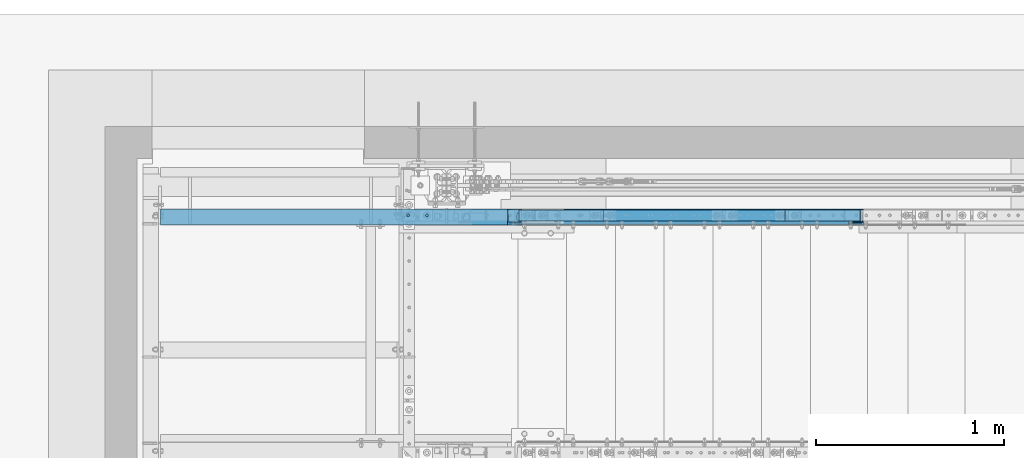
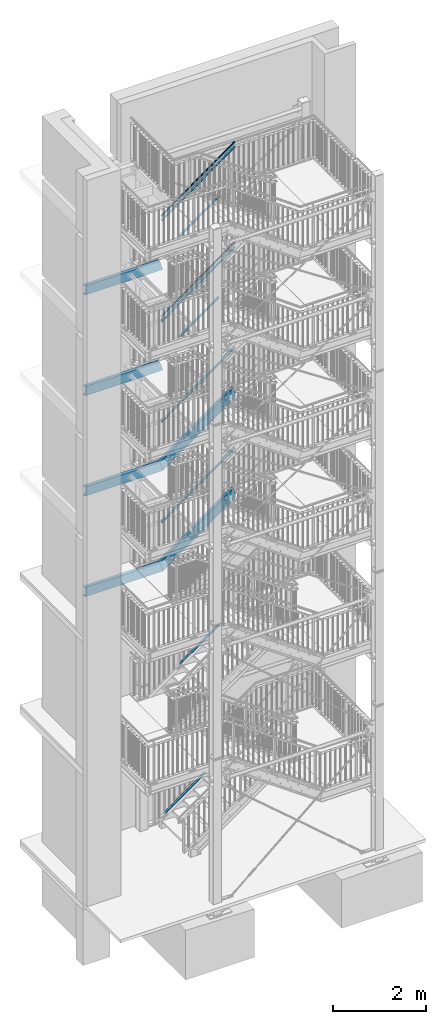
# One storey, part 127 of 831: 12 members, 4 beams, 56 openings.
"""IFC2X3 building model written with IfcOpenShell, lengths in millimetres."""

from ifc_helpers import new_model, entity, si_unit, converted_unit, frame, frame_2d, origin, origin_with_axes, origin_2d, origin_2d_with_axis, place, context, project, spatial, rectangle, circle, hollow_circle, u_section, extrude, clip, halfspace, material, element, save


model = new_model("IFC2X3")

# Units and contexts
model_context = context("Model", 3, precision=1e-09, world=origin_with_axes())
ifc_project = project(units=[si_unit("LENGTHUNIT", "METRE", prefix="MILLI"), si_unit("AREAUNIT", "SQUARE_METRE"), si_unit("VOLUMEUNIT", "CUBIC_METRE"), converted_unit("PLANEANGLEUNIT", "DEGREE", entity("IfcPlaneAngleMeasure", 0.01745329), si_unit("PLANEANGLEUNIT", "RADIAN"), dimensions=[0, 0, 0, 0, 0, 0, 0])], contexts=[model_context])

# Site, building, storey
site_placement = place(None, origin_with_axes())
site = spatial("IfcSite", under=ifc_project, at=site_placement, Name="Site", CompositionType="ELEMENT")
building_placement = place(site_placement, origin_with_axes())
building = spatial("IfcBuilding", under=site, at=building_placement, Name="Struktur 1", CompositionType="ELEMENT")
storey_placement = place(building_placement, origin_with_axes())
storey = spatial("IfcBuildingStorey", under=building, at=storey_placement, Name="Default Storey", CompositionType="ELEMENT", Elevation=0.0)

# Members
ifc_material = material(Name="S235JR")
member_1_placement = place(None, frame((5211.184895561, 7347.936971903, 13700.519885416), z_axis=(-0.810033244, 0.0, -0.586383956), x_axis=(0.586383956, 0.0, -0.810033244)))
element("IfcMember", 1, at=member_1_placement, inside=storey, material=ifc_material, Name="Gel?nder", ObjectType="Gel?nder", context=model_context, shape_type="Clipping", body=[
    clip(clip(extrude(hollow_circle(Radius=21.2, WallThickness=3.2, at=origin_2d()), origin(), (0.0, 0.0, -1.0), 2309.852130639), halfspace(frame((10880.560986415, 7347.936971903, 3493.383681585), z_axis=(0.308193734, 0.0, -0.951323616), x_axis=(0.0, -1.0, 0.0)), True)), halfspace(frame((11539.310370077, 7347.936971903, 1459.97490131), z_axis=(-0.308193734, 0.0, 0.951323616), x_axis=(0.0, 1.0, 0.0)), True)),
])
member_2_placement = place(None, frame((5697.145465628, 7356.736971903, 13032.550896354), z_axis=(-0.810033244, 0.0, -0.586383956), x_axis=(0.586383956, 0.0, -0.810033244)))
element("IfcMember", 2, at=member_2_placement, inside=storey, material=ifc_material, Name="Railing_Kneerail_Stair#3", ObjectType="Railing_Kneerail_Stair#3", context=model_context, shape_type="SweptSolid", body=[
    extrude(rectangle(XDim=10.0, YDim=60.0, at=origin_2d()), origin(), (0.0, 0.0, -1.0), 1190.242882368),
])
member_3_placement = place(None, frame((5211.146119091, 7347.936971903, 16335.597174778), z_axis=(-0.811618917, 0.0, -0.584187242), x_axis=(0.584187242, 0.0, -0.811618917)))
element("IfcMember", 3, at=member_3_placement, inside=storey, material=ifc_material, Name="Gel?nder", ObjectType="Gel?nder", context=model_context, shape_type="Clipping", body=[
    clip(clip(extrude(hollow_circle(Radius=21.2, WallThickness=3.2, at=origin_2d()), origin(), (0.0, 0.0, -1.0), 2305.434890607), halfspace(frame((13283.997609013, 7347.936971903, 4252.147668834), z_axis=(0.306904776, 0.0, -0.951740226), x_axis=(0.0, -1.0, 0.0)), True)), halfspace(frame((13938.996995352, 7347.936971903, 2220.933713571), z_axis=(-0.306904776, 0.0, 0.951740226), x_axis=(0.0, 1.0, 0.0)), True)),
])
member_4_placement = place(None, frame((5697.134482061, 7356.736971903, 15665.488832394), z_axis=(-0.811618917, 0.0, -0.584187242), x_axis=(0.584187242, 0.0, -0.811618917)))
element("IfcMember", 4, at=member_4_placement, inside=storey, material=ifc_material, Name="Railing_Kneerail_Stair#3", ObjectType="Railing_Kneerail_Stair#3", context=model_context, shape_type="SweptSolid", body=[
    extrude(rectangle(XDim=10.0, YDim=60.0, at=origin_2d()), origin(), (0.0, 0.0, -1.0), 1187.944551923),
])
member_5_placement = place(None, frame((5246.470638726, 7356.736971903, 16228.741905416), z_axis=(-0.811618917, 0.0, -0.584187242), x_axis=(0.584187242, 0.0, -0.811618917)))
element("IfcMember", 5, at=member_5_placement, inside=storey, material=ifc_material, Name="Railing_Kneerail_Stair#1002", ObjectType="Railing_Kneerail_Stair#1002", context=model_context, shape_type="SweptSolid", body=[
    extrude(rectangle(XDim=10.0, YDim=60.0, at=origin_2d()), origin(), (0.0, 0.0, -1.0), 2239.20704706),
])
member_6_placement = place(None, frame((5246.513340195, 7356.736971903, 13593.749833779), z_axis=(-0.810033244, 0.0, -0.586383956), x_axis=(0.586383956, 0.0, -0.810033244)))
element("IfcMember", 6, at=member_6_placement, inside=storey, material=ifc_material, Name="Railing_Kneerail_Stair#1002", ObjectType="Railing_Kneerail_Stair#1002", context=model_context, shape_type="SweptSolid", body=[
    extrude(rectangle(XDim=10.0, YDim=60.0, at=origin_2d()), origin(), (0.0, 0.0, -1.0), 2243.581735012),
])
member_7_placement = place(None, frame((5246.490586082, 7356.736971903, 10966.745605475), z_axis=(-0.810878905, 0.0, -0.585213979), x_axis=(0.585213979, 0.0, -0.810878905)))
element("IfcMember", 7, at=member_7_placement, inside=storey, material=ifc_material, Name="Railing_Kneerail_Stair#1002", ObjectType="Railing_Kneerail_Stair#1002", context=model_context, shape_type="SweptSolid", body=[
    extrude(rectangle(XDim=10.0, YDim=60.0, at=origin_2d()), origin(), (0.0, 0.0, -1.0), 2241.246511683),
])
member_8_placement = place(None, frame((5246.504812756, 7356.736971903, 8334.74824821), z_axis=(-0.810350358, 0.0, -0.585945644), x_axis=(0.585945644, 0.0, -0.810350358)))
element("IfcMember", 8, at=member_8_placement, inside=storey, material=ifc_material, Name="Railing_Kneerail_Stair#1002", ObjectType="Railing_Kneerail_Stair#1002", context=model_context, shape_type="SweptSolid", body=[
    extrude(rectangle(XDim=10.0, YDim=60.0, at=origin_2d()), origin(), (0.0, 0.0, -1.0), 2242.705476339),
])
member_9_placement = place(None, frame((5332.112742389, 7356.736971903, 702.814518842), z_axis=(-0.814635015, 0.0, -0.579973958), x_axis=(0.579973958, 0.0, -0.814635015)))
element("IfcMember", 9, at=member_9_placement, inside=storey, material=ifc_material, Name="Railing_Kneerail_Stair#1", ObjectType="Railing_Kneerail_Stair#1", context=model_context, shape_type="SweptSolid", body=[
    extrude(rectangle(XDim=10.0, YDim=60.0, at=origin_2d()), origin(), (0.0, 0.0, -1.0), 1218.06374537),
])
member_10_placement = place(None, frame((5697.089187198, 7356.736971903, 4472.906384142), z_axis=(-0.818063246, 0.0, -0.575128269), x_axis=(0.575128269, 0.0, -0.818063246)))
element("IfcMember", 10, at=member_10_placement, inside=storey, material=ifc_material, Name="Railing_Kneerail_Stair#3", ObjectType="Railing_Kneerail_Stair#3", context=model_context, shape_type="SweptSolid", body=[
    extrude(rectangle(XDim=10.0, YDim=60.0, at=origin_2d()), origin(), (0.0, 0.0, -1.0), 1178.697203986),
])

# Member, openings
member_11_placement = place(None, frame((5040.769761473, 7329.036971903, 9702.599256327), z_axis=(0.810878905, 0.0, 0.585213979), x_axis=(0.0, 1.0, 0.0)))
member_11 = element("IfcMember", 11, at=member_11_placement, inside=storey, material=ifc_material, Name="Stringer#1", ObjectType="Stringer#1", context=model_context, shape_type="Clipping", body=[
    clip(clip(extrude(u_section(Depth=240.0, FlangeWidth=85.0, WebThickness=9.5, FlangeThickness=13.0, FilletRadius=13.0, EdgeRadius=6.5, FlangeSlope=4.574, at=frame_2d((20.2, 0.0))), origin(), (0.0, 0.0, 1.0), 2764.271887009), halfspace(frame((-7329.036971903, -8031.601758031, -129.944247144), z_axis=(0.0, 0.307506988, -0.951545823), x_axis=(-1.0, 0.0, 0.0)), True)), halfspace(frame((-7329.036971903, -7374.852372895, -2162.18142843), z_axis=(0.0, -0.307506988, 0.951545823), x_axis=(1.0, 0.0, 0.0)), True)),
])
opening_1_placement = place(member_11_placement, frame((-22.8, -50.419344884, 791.0398607), z_axis=(1.0, 0.0, 0.0), x_axis=(0.0, -0.585213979, 0.810878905)))
element("IfcOpeningElement", 12, at=opening_1_placement, cuts=member_11, ObjectType="Opening", context=model_context, shape_type="SweptSolid", body=[
    extrude(circle(Radius=7.001, at=origin_2d_with_axis()), origin(), (0.0, 0.0, 1.0), 10.5),
])
opening_2_placement = place(member_11_placement, frame((-22.8, 54.91917113, 1607.0008729), z_axis=(1.0, 0.0, 0.0), x_axis=(0.0, -0.585213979, 0.810878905)))
element("IfcOpeningElement", 13, at=opening_2_placement, cuts=member_11, ObjectType="Opening", context=model_context, shape_type="SweptSolid", body=[
    extrude(circle(Radius=7.001, at=origin_2d_with_axis()), origin(), (0.0, 0.0, 1.0), 10.5),
])
opening_3_placement = place(member_11_placement, frame((-22.8, -50.419345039, 1432.319337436), z_axis=(1.0, 0.0, 0.0), x_axis=(0.0, -0.585213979, 0.810878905)))
element("IfcOpeningElement", 14, at=opening_3_placement, cuts=member_11, ObjectType="Opening", context=model_context, shape_type="SweptSolid", body=[
    extrude(circle(Radius=7.001, at=origin_2d_with_axis()), origin(), (0.0, 0.0, 1.0), 10.5),
])
opening_4_placement = place(member_11_placement, frame((-22.8, -50.419345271, 2394.23855254), z_axis=(1.0, 0.0, 0.0), x_axis=(0.0, -0.585213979, 0.810878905)))
element("IfcOpeningElement", 15, at=opening_4_placement, cuts=member_11, ObjectType="Opening", context=model_context, shape_type="SweptSolid", body=[
    extrude(circle(Radius=7.001, at=origin_2d_with_axis()), origin(), (0.0, 0.0, 1.0), 10.5),
])
opening_5_placement = place(member_11_placement, frame((-22.8, -50.419345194, 2073.598814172), z_axis=(1.0, 0.0, 0.0), x_axis=(0.0, -0.585213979, 0.810878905)))
element("IfcOpeningElement", 16, at=opening_5_placement, cuts=member_11, ObjectType="Opening", context=model_context, shape_type="SweptSolid", body=[
    extrude(circle(Radius=7.001, at=origin_2d_with_axis()), origin(), (0.0, 0.0, 1.0), 10.5),
])
opening_6_placement = place(member_11_placement, frame((-22.8, 54.919171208, 1286.361134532), z_axis=(1.0, 0.0, 0.0), x_axis=(0.0, -0.585213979, 0.810878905)))
element("IfcOpeningElement", 17, at=opening_6_placement, cuts=member_11, ObjectType="Opening", context=model_context, shape_type="SweptSolid", body=[
    extrude(circle(Radius=7.001, at=origin_2d_with_axis()), origin(), (0.0, 0.0, 1.0), 10.5),
])
opening_7_placement = place(member_11_placement, frame((-22.8, 54.919170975, 2248.280349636), z_axis=(1.0, 0.0, 0.0), x_axis=(0.0, -0.585213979, 0.810878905)))
element("IfcOpeningElement", 18, at=opening_7_placement, cuts=member_11, ObjectType="Opening", context=model_context, shape_type="SweptSolid", body=[
    extrude(circle(Radius=7.001, at=origin_2d_with_axis()), origin(), (0.0, 0.0, 1.0), 10.5),
])
opening_8_placement = place(member_11_placement, frame((-22.8, -50.419344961, 1111.679599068), z_axis=(1.0, 0.0, 0.0), x_axis=(0.0, -0.585213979, 0.810878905)))
element("IfcOpeningElement", 19, at=opening_8_placement, cuts=member_11, ObjectType="Opening", context=model_context, shape_type="SweptSolid", body=[
    extrude(circle(Radius=7.001, at=origin_2d_with_axis()), origin(), (0.0, 0.0, 1.0), 10.5),
])
opening_9_placement = place(member_11_placement, frame((-22.8, 54.919171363, 645.081657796), z_axis=(1.0, 0.0, 0.0), x_axis=(0.0, -0.585213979, 0.810878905)))
element("IfcOpeningElement", 20, at=opening_9_placement, cuts=member_11, ObjectType="Opening", context=model_context, shape_type="SweptSolid", body=[
    extrude(circle(Radius=7.001, at=origin_2d_with_axis()), origin(), (0.0, 0.0, 1.0), 10.5),
])
opening_10_placement = place(member_11_placement, frame((-22.8, -50.419345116, 1752.959075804), z_axis=(1.0, 0.0, 0.0), x_axis=(0.0, -0.585213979, 0.810878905)))
element("IfcOpeningElement", 21, at=opening_10_placement, cuts=member_11, ObjectType="Opening", context=model_context, shape_type="SweptSolid", body=[
    extrude(circle(Radius=7.001, at=origin_2d_with_axis()), origin(), (0.0, 0.0, 1.0), 10.5),
])
opening_11_placement = place(member_11_placement, frame((-22.8, 54.919171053, 1927.640611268), z_axis=(1.0, 0.0, 0.0), x_axis=(0.0, -0.585213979, 0.810878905)))
element("IfcOpeningElement", 22, at=opening_11_placement, cuts=member_11, ObjectType="Opening", context=model_context, shape_type="SweptSolid", body=[
    extrude(circle(Radius=7.001, at=origin_2d_with_axis()), origin(), (0.0, 0.0, 1.0), 10.5),
])
opening_12_placement = place(member_11_placement, frame((-22.8, 54.919171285, 965.721396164), z_axis=(1.0, 0.0, 0.0), x_axis=(0.0, -0.585213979, 0.810878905)))
element("IfcOpeningElement", 23, at=opening_12_placement, cuts=member_11, ObjectType="Opening", context=model_context, shape_type="SweptSolid", body=[
    extrude(circle(Radius=7.001, at=origin_2d_with_axis()), origin(), (0.0, 0.0, 1.0), 10.5),
])
opening_13_placement = place(member_11_placement, frame((27.7, 120.5, 940.625983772), z_axis=(0.0, 1.0, 0.0), x_axis=(-1.0, 0.0, 0.0)))
element("IfcOpeningElement", 24, at=opening_13_placement, cuts=member_11, ObjectType="Opening", context=model_context, shape_type="SweptSolid", body=[
    extrude(circle(Radius=7.001, at=frame_2d((0.0, 7.001), x_axis=(1.0, 0.0))), origin(), (0.0, 0.0, -1.0), 14.0),
])
opening_14_placement = place(member_11_placement, frame((27.7, 120.5, 840.625983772), z_axis=(0.0, 1.0, 0.0), x_axis=(-1.0, 0.0, 0.0)))
element("IfcOpeningElement", 25, at=opening_14_placement, cuts=member_11, ObjectType="Opening", context=model_context, shape_type="SweptSolid", body=[
    extrude(circle(Radius=7.001, at=frame_2d((0.0, 7.001), x_axis=(1.0, 0.0))), origin(), (0.0, 0.0, -1.0), 14.0),
])
opening_15_placement = place(member_11_placement, frame((27.7, 120.5, 2155.357476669), z_axis=(0.0, 1.0, 0.0), x_axis=(-1.0, 0.0, 0.0)))
element("IfcOpeningElement", 26, at=opening_15_placement, cuts=member_11, ObjectType="Opening", context=model_context, shape_type="SweptSolid", body=[
    extrude(circle(Radius=7.001, at=frame_2d((0.0, 7.001), x_axis=(1.0, 0.0))), origin(), (0.0, 0.0, -1.0), 14.0),
])
opening_16_placement = place(member_11_placement, frame((27.7, 120.5, 2055.357476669), z_axis=(0.0, 1.0, 0.0), x_axis=(-1.0, 0.0, 0.0)))
element("IfcOpeningElement", 27, at=opening_16_placement, cuts=member_11, ObjectType="Opening", context=model_context, shape_type="SweptSolid", body=[
    extrude(circle(Radius=7.001, at=frame_2d((0.0, 7.001), x_axis=(1.0, 0.0))), origin(), (0.0, 0.0, -1.0), 14.0),
])

# Beam, openings
beam_1_placement = place(None, frame((3074.409632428, 7329.036971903, 9832.0), z_axis=(1.0, 0.0, 0.0), x_axis=(0.0, 1.0, 0.0)))
beam_1 = element("IfcBeam", 28, at=beam_1_placement, inside=storey, material=ifc_material, Name="BottomLanding#2", ObjectType="BottomLanding#2", context=model_context, shape_type="Clipping", body=[
    clip(clip(extrude(u_section(Depth=240.0, FlangeWidth=85.0, WebThickness=9.5, FlangeThickness=13.0, FilletRadius=13.0, EdgeRadius=6.5, FlangeSlope=4.574, at=frame_2d((20.2, 0.0))), origin(), (0.0, 0.0, 1.0), 2366.776191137), halfspace(frame((-7329.036971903, -9832.0, 257.304770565), z_axis=(0.0, 0.0, 1.0), x_axis=(1.0, 0.0, 0.0)), True)), halfspace(frame((-7329.036971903, -7374.852372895, 4528.957619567), z_axis=(0.0, -0.307506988, -0.951545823), x_axis=(-1.0, 0.0, 0.0)), True)),
])
opening_17_placement = place(beam_1_placement, frame((-12.3, 20.0, 1377.303770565), z_axis=(-1.0, 0.0, 0.0), x_axis=(0.0, 0.0, 1.0)))
element("IfcOpeningElement", 29, at=opening_17_placement, cuts=beam_1, ObjectType="Opening", context=model_context, shape_type="SweptSolid", body=[
    extrude(circle(Radius=7.001, at=frame_2d((50.0, 0.0), x_axis=(1.0, 0.0))), origin(), (0.0, 0.0, 1.0), 10.5),
])
opening_18_placement = place(beam_1_placement, frame((-12.3, 20.0, 1377.303770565), z_axis=(-1.0, 0.0, 0.0), x_axis=(0.0, 0.0, 1.0)))
element("IfcOpeningElement", 30, at=opening_18_placement, cuts=beam_1, ObjectType="Opening", context=model_context, shape_type="SweptSolid", body=[
    extrude(circle(Radius=7.001, at=frame_2d((-50.0, 0.0), x_axis=(1.0, 0.0))), origin(), (0.0, 0.0, 1.0), 10.5),
])
opening_19_placement = place(beam_1_placement, frame((27.7, 120.5, 1670.302770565), z_axis=(0.0, 1.0, 0.0), x_axis=(-1.0, 0.0, 0.0)))
element("IfcOpeningElement", 31, at=opening_19_placement, cuts=beam_1, ObjectType="Opening", context=model_context, shape_type="SweptSolid", body=[
    extrude(circle(Radius=7.001, at=frame_2d((0.0, 7.001), x_axis=(1.0, 0.0))), origin(), (0.0, 0.0, -1.0), 14.0),
])
opening_20_placement = place(beam_1_placement, frame((27.7, 120.5, 1570.302770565), z_axis=(0.0, 1.0, 0.0), x_axis=(-1.0, 0.0, 0.0)))
element("IfcOpeningElement", 32, at=opening_20_placement, cuts=beam_1, ObjectType="Opening", context=model_context, shape_type="SweptSolid", body=[
    extrude(circle(Radius=7.001, at=frame_2d((0.0, 7.001), x_axis=(1.0, 0.0))), origin(), (0.0, 0.0, -1.0), 14.0),
])
opening_21_placement = place(beam_1_placement, frame((22.7, -120.5, 1732.303770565), z_axis=(0.0, 1.0, 0.0), x_axis=(1.0, 0.0, 0.0)))
element("IfcOpeningElement", 33, at=opening_21_placement, cuts=beam_1, ObjectType="Opening", context=model_context, shape_type="SweptSolid", body=[
    extrude(circle(Radius=7.001, at=origin_2d_with_axis()), origin(), (0.0, 0.0, 1.0), 14.0),
])
opening_22_placement = place(beam_1_placement, frame((22.7, -120.5, 1832.303770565), z_axis=(0.0, 1.0, 0.0), x_axis=(1.0, 0.0, 0.0)))
element("IfcOpeningElement", 34, at=opening_22_placement, cuts=beam_1, ObjectType="Opening", context=model_context, shape_type="SweptSolid", body=[
    extrude(circle(Radius=7.001, at=origin_2d_with_axis()), origin(), (0.0, 0.0, 1.0), 14.0),
])

# Member, openings
member_12_placement = place(None, frame((5041.069476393, 7329.036971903, 7070.450295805), z_axis=(0.810350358, 0.0, 0.585945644), x_axis=(0.0, 1.0, 0.0)))
member_12 = element("IfcMember", 35, at=member_12_placement, inside=storey, material=ifc_material, Name="Stringer#1", ObjectType="Stringer#1", context=model_context, shape_type="Clipping", body=[
    clip(clip(extrude(u_section(Depth=240.0, FlangeWidth=85.0, WebThickness=9.5, FlangeThickness=13.0, FilletRadius=13.0, EdgeRadius=6.5, FlangeSlope=4.574, at=frame_2d((20.2, 0.0))), origin(), (0.0, 0.0, 1.0), 2765.811710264), halfspace(frame((-7329.036971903, -5645.874307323, 639.66863089), z_axis=(0.0, 0.307936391, -0.951406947), x_axis=(-1.0, 0.0, 0.0)), True)), halfspace(frame((-7329.036971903, -4987.874923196, -1393.300525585), z_axis=(0.0, -0.307936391, 0.951406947), x_axis=(1.0, 0.0, 0.0)), True)),
])
opening_23_placement = place(member_12_placement, frame((-22.8, 54.922632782, 2249.429010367), z_axis=(1.0, 0.0, 0.0), x_axis=(0.0, -0.585945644, 0.810350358)))
element("IfcOpeningElement", 36, at=opening_23_placement, cuts=member_12, ObjectType="Opening", context=model_context, shape_type="SweptSolid", body=[
    extrude(circle(Radius=7.001, at=origin_2d_with_axis()), origin(), (0.0, 0.0, 1.0), 10.5),
])
opening_24_placement = place(member_12_placement, frame((-22.8, -50.547583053, 2395.29207482), z_axis=(1.0, 0.0, 0.0), x_axis=(0.0, -0.585945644, 0.810350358)))
element("IfcOpeningElement", 37, at=opening_24_placement, cuts=member_12, ObjectType="Opening", context=model_context, shape_type="SweptSolid", body=[
    extrude(circle(Radius=7.001, at=origin_2d_with_axis()), origin(), (0.0, 0.0, 1.0), 10.5),
])
opening_25_placement = place(member_12_placement, frame((-22.8, -50.547583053, 2074.443200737), z_axis=(1.0, 0.0, 0.0), x_axis=(0.0, -0.585945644, 0.810350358)))
element("IfcOpeningElement", 38, at=opening_25_placement, cuts=member_12, ObjectType="Opening", context=model_context, shape_type="SweptSolid", body=[
    extrude(circle(Radius=7.001, at=origin_2d_with_axis()), origin(), (0.0, 0.0, 1.0), 10.5),
])
opening_26_placement = place(member_12_placement, frame((-22.8, 54.922632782, 1607.731262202), z_axis=(1.0, 0.0, 0.0), x_axis=(0.0, -0.585945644, 0.810350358)))
element("IfcOpeningElement", 39, at=opening_26_placement, cuts=member_12, ObjectType="Opening", context=model_context, shape_type="SweptSolid", body=[
    extrude(circle(Radius=7.001, at=origin_2d_with_axis()), origin(), (0.0, 0.0, 1.0), 10.5),
])
opening_27_placement = place(member_12_placement, frame((-22.8, 54.922632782, 966.033514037), z_axis=(1.0, 0.0, 0.0), x_axis=(0.0, -0.585945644, 0.810350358)))
element("IfcOpeningElement", 40, at=opening_27_placement, cuts=member_12, ObjectType="Opening", context=model_context, shape_type="SweptSolid", body=[
    extrude(circle(Radius=7.001, at=origin_2d_with_axis()), origin(), (0.0, 0.0, 1.0), 10.5),
])
opening_28_placement = place(member_12_placement, frame((-22.8, 54.922632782, 1286.882388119), z_axis=(1.0, 0.0, 0.0), x_axis=(0.0, -0.585945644, 0.810350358)))
element("IfcOpeningElement", 41, at=opening_28_placement, cuts=member_12, ObjectType="Opening", context=model_context, shape_type="SweptSolid", body=[
    extrude(circle(Radius=7.001, at=origin_2d_with_axis()), origin(), (0.0, 0.0, 1.0), 10.5),
])
opening_29_placement = place(member_12_placement, frame((-22.8, -50.547583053, 1111.89657849), z_axis=(1.0, 0.0, 0.0), x_axis=(0.0, -0.585945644, 0.810350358)))
element("IfcOpeningElement", 42, at=opening_29_placement, cuts=member_12, ObjectType="Opening", context=model_context, shape_type="SweptSolid", body=[
    extrude(circle(Radius=7.001, at=origin_2d_with_axis()), origin(), (0.0, 0.0, 1.0), 10.5),
])
opening_30_placement = place(member_12_placement, frame((-22.8, 54.922632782, 1928.580136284), z_axis=(1.0, 0.0, 0.0), x_axis=(0.0, -0.585945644, 0.810350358)))
element("IfcOpeningElement", 43, at=opening_30_placement, cuts=member_12, ObjectType="Opening", context=model_context, shape_type="SweptSolid", body=[
    extrude(circle(Radius=7.001, at=origin_2d_with_axis()), origin(), (0.0, 0.0, 1.0), 10.5),
])
opening_31_placement = place(member_12_placement, frame((-22.8, -50.547583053, 791.047704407), z_axis=(1.0, 0.0, 0.0), x_axis=(0.0, -0.585945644, 0.810350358)))
element("IfcOpeningElement", 44, at=opening_31_placement, cuts=member_12, ObjectType="Opening", context=model_context, shape_type="SweptSolid", body=[
    extrude(circle(Radius=7.001, at=origin_2d_with_axis()), origin(), (0.0, 0.0, 1.0), 10.5),
])
opening_32_placement = place(member_12_placement, frame((-22.8, 54.922632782, 645.184639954), z_axis=(1.0, 0.0, 0.0), x_axis=(0.0, -0.585945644, 0.810350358)))
element("IfcOpeningElement", 45, at=opening_32_placement, cuts=member_12, ObjectType="Opening", context=model_context, shape_type="SweptSolid", body=[
    extrude(circle(Radius=7.001, at=origin_2d_with_axis()), origin(), (0.0, 0.0, 1.0), 10.5),
])
opening_33_placement = place(member_12_placement, frame((-22.8, -50.547583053, 1432.745452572), z_axis=(1.0, 0.0, 0.0), x_axis=(0.0, -0.585945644, 0.810350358)))
element("IfcOpeningElement", 46, at=opening_33_placement, cuts=member_12, ObjectType="Opening", context=model_context, shape_type="SweptSolid", body=[
    extrude(circle(Radius=7.001, at=origin_2d_with_axis()), origin(), (0.0, 0.0, 1.0), 10.5),
])
opening_34_placement = place(member_12_placement, frame((-22.8, -50.547583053, 1753.594326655), z_axis=(1.0, 0.0, 0.0), x_axis=(0.0, -0.585945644, 0.810350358)))
element("IfcOpeningElement", 47, at=opening_34_placement, cuts=member_12, ObjectType="Opening", context=model_context, shape_type="SweptSolid", body=[
    extrude(circle(Radius=7.001, at=origin_2d_with_axis()), origin(), (0.0, 0.0, 1.0), 10.5),
])
opening_35_placement = place(member_12_placement, frame((27.7, 120.5, 940.946569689), z_axis=(0.0, 1.0, 0.0), x_axis=(-1.0, 0.0, 0.0)))
element("IfcOpeningElement", 48, at=opening_35_placement, cuts=member_12, ObjectType="Opening", context=model_context, shape_type="SweptSolid", body=[
    extrude(circle(Radius=7.001, at=frame_2d((0.0, 7.001), x_axis=(1.0, 0.0))), origin(), (0.0, 0.0, -1.0), 14.0),
])
opening_36_placement = place(member_12_placement, frame((27.7, 120.5, 840.946569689), z_axis=(0.0, 1.0, 0.0), x_axis=(-1.0, 0.0, 0.0)))
element("IfcOpeningElement", 49, at=opening_36_placement, cuts=member_12, ObjectType="Opening", context=model_context, shape_type="SweptSolid", body=[
    extrude(circle(Radius=7.001, at=frame_2d((0.0, 7.001), x_axis=(1.0, 0.0))), origin(), (0.0, 0.0, -1.0), 14.0),
])
opening_37_placement = place(member_12_placement, frame((27.7, 120.5, 2156.470365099), z_axis=(0.0, 1.0, 0.0), x_axis=(-1.0, 0.0, 0.0)))
element("IfcOpeningElement", 50, at=opening_37_placement, cuts=member_12, ObjectType="Opening", context=model_context, shape_type="SweptSolid", body=[
    extrude(circle(Radius=7.001, at=frame_2d((0.0, 7.001), x_axis=(1.0, 0.0))), origin(), (0.0, 0.0, -1.0), 14.0),
])
opening_38_placement = place(member_12_placement, frame((27.7, 120.5, 2056.470365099), z_axis=(0.0, 1.0, 0.0), x_axis=(-1.0, 0.0, 0.0)))
element("IfcOpeningElement", 51, at=opening_38_placement, cuts=member_12, ObjectType="Opening", context=model_context, shape_type="SweptSolid", body=[
    extrude(circle(Radius=7.001, at=frame_2d((0.0, 7.001), x_axis=(1.0, 0.0))), origin(), (0.0, 0.0, -1.0), 14.0),
])

# Beam, openings
beam_2_placement = place(None, frame((3074.409632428, 7329.036971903, 7200.0), z_axis=(1.0, 0.0, 0.0), x_axis=(0.0, 1.0, 0.0)))
beam_2 = element("IfcBeam", 52, at=beam_2_placement, inside=storey, material=ifc_material, Name="BottomLanding#2", ObjectType="BottomLanding#2", context=model_context, shape_type="Clipping", body=[
    clip(clip(extrude(u_section(Depth=240.0, FlangeWidth=85.0, WebThickness=9.5, FlangeThickness=13.0, FilletRadius=13.0, EdgeRadius=6.5, FlangeSlope=4.574, at=frame_2d((20.2, 0.0))), origin(), (0.0, 0.0, 1.0), 2366.919417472), halfspace(frame((-7329.036971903, -7200.0, 257.304770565), z_axis=(0.0, 0.0, 1.0), x_axis=(1.0, 0.0, 0.0)), True)), halfspace(frame((-7329.036971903, -4987.874923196, 3760.219943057), z_axis=(0.0, -0.307936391, -0.951406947), x_axis=(-1.0, 0.0, 0.0)), True)),
])
opening_39_placement = place(beam_2_placement, frame((-12.3, 20.0, 1377.303770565), z_axis=(-1.0, 0.0, 0.0), x_axis=(0.0, 0.0, 1.0)))
element("IfcOpeningElement", 53, at=opening_39_placement, cuts=beam_2, ObjectType="Opening", context=model_context, shape_type="SweptSolid", body=[
    extrude(circle(Radius=7.001, at=frame_2d((50.0, 0.0), x_axis=(1.0, 0.0))), origin(), (0.0, 0.0, 1.0), 10.5),
])
opening_40_placement = place(beam_2_placement, frame((-12.3, 20.0, 1377.303770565), z_axis=(-1.0, 0.0, 0.0), x_axis=(0.0, 0.0, 1.0)))
element("IfcOpeningElement", 54, at=opening_40_placement, cuts=beam_2, ObjectType="Opening", context=model_context, shape_type="SweptSolid", body=[
    extrude(circle(Radius=7.001, at=frame_2d((-50.0, 0.0), x_axis=(1.0, 0.0))), origin(), (0.0, 0.0, 1.0), 10.5),
])
opening_41_placement = place(beam_2_placement, frame((27.7, 120.5, 1670.302770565), z_axis=(0.0, 1.0, 0.0), x_axis=(-1.0, 0.0, 0.0)))
element("IfcOpeningElement", 55, at=opening_41_placement, cuts=beam_2, ObjectType="Opening", context=model_context, shape_type="SweptSolid", body=[
    extrude(circle(Radius=7.001, at=frame_2d((0.0, 7.001), x_axis=(1.0, 0.0))), origin(), (0.0, 0.0, -1.0), 14.0),
])
opening_42_placement = place(beam_2_placement, frame((27.7, 120.5, 1570.302770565), z_axis=(0.0, 1.0, 0.0), x_axis=(-1.0, 0.0, 0.0)))
element("IfcOpeningElement", 56, at=opening_42_placement, cuts=beam_2, ObjectType="Opening", context=model_context, shape_type="SweptSolid", body=[
    extrude(circle(Radius=7.001, at=frame_2d((0.0, 7.001), x_axis=(1.0, 0.0))), origin(), (0.0, 0.0, -1.0), 14.0),
])
opening_43_placement = place(beam_2_placement, frame((22.7, -120.5, 1732.303770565), z_axis=(0.0, 1.0, 0.0), x_axis=(1.0, 0.0, 0.0)))
element("IfcOpeningElement", 57, at=opening_43_placement, cuts=beam_2, ObjectType="Opening", context=model_context, shape_type="SweptSolid", body=[
    extrude(circle(Radius=7.001, at=origin_2d_with_axis()), origin(), (0.0, 0.0, 1.0), 14.0),
])
opening_44_placement = place(beam_2_placement, frame((22.7, -120.5, 1832.303770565), z_axis=(0.0, 1.0, 0.0), x_axis=(1.0, 0.0, 0.0)))
element("IfcOpeningElement", 58, at=opening_44_placement, cuts=beam_2, ObjectType="Opening", context=model_context, shape_type="SweptSolid", body=[
    extrude(circle(Radius=7.001, at=origin_2d_with_axis()), origin(), (0.0, 0.0, 1.0), 14.0),
])

beam_3_placement = place(None, frame((3074.409632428, 7329.036971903, 12459.0), z_axis=(1.0, 0.0, 0.0), x_axis=(0.0, 1.0, 0.0)))
beam_3 = element("IfcBeam", 59, at=beam_3_placement, inside=storey, material=ifc_material, Name="BottomLanding#2", ObjectType="BottomLanding#2", context=model_context, shape_type="Clipping", body=[
    clip(clip(extrude(u_section(Depth=240.0, FlangeWidth=85.0, WebThickness=9.5, FlangeThickness=13.0, FilletRadius=13.0, EdgeRadius=6.5, FlangeSlope=4.574, at=frame_2d((20.2, 0.0))), origin(), (0.0, 0.0, 1.0), 2367.005168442), halfspace(frame((-7329.036971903, -12459.0, 257.304770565), z_axis=(0.0, 0.0, 1.0), x_axis=(1.0, 0.0, 0.0)), True)), halfspace(frame((-7329.036971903, -9745.042702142, 5302.956230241), z_axis=(0.0, -0.308193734, -0.951323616), x_axis=(-1.0, 0.0, 0.0)), True)),
])
opening_45_placement = place(beam_3_placement, frame((-12.3, 20.0, 1377.303770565), z_axis=(-1.0, 0.0, 0.0), x_axis=(0.0, 0.0, 1.0)))
element("IfcOpeningElement", 60, at=opening_45_placement, cuts=beam_3, ObjectType="Opening", context=model_context, shape_type="SweptSolid", body=[
    extrude(circle(Radius=7.001, at=frame_2d((50.0, 0.0), x_axis=(1.0, 0.0))), origin(), (0.0, 0.0, 1.0), 10.5),
])
opening_46_placement = place(beam_3_placement, frame((-12.3, 20.0, 1377.303770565), z_axis=(-1.0, 0.0, 0.0), x_axis=(0.0, 0.0, 1.0)))
element("IfcOpeningElement", 61, at=opening_46_placement, cuts=beam_3, ObjectType="Opening", context=model_context, shape_type="SweptSolid", body=[
    extrude(circle(Radius=7.001, at=frame_2d((-50.0, 0.0), x_axis=(1.0, 0.0))), origin(), (0.0, 0.0, 1.0), 10.5),
])
opening_47_placement = place(beam_3_placement, frame((27.7, 120.5, 1670.302770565), z_axis=(0.0, 1.0, 0.0), x_axis=(-1.0, 0.0, 0.0)))
element("IfcOpeningElement", 62, at=opening_47_placement, cuts=beam_3, ObjectType="Opening", context=model_context, shape_type="SweptSolid", body=[
    extrude(circle(Radius=7.001, at=frame_2d((0.0, 7.001), x_axis=(1.0, 0.0))), origin(), (0.0, 0.0, -1.0), 14.0),
])
opening_48_placement = place(beam_3_placement, frame((27.7, 120.5, 1570.302770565), z_axis=(0.0, 1.0, 0.0), x_axis=(-1.0, 0.0, 0.0)))
element("IfcOpeningElement", 63, at=opening_48_placement, cuts=beam_3, ObjectType="Opening", context=model_context, shape_type="SweptSolid", body=[
    extrude(circle(Radius=7.001, at=frame_2d((0.0, 7.001), x_axis=(1.0, 0.0))), origin(), (0.0, 0.0, -1.0), 14.0),
])
opening_49_placement = place(beam_3_placement, frame((22.7, -120.5, 1832.303770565), z_axis=(0.0, 1.0, 0.0), x_axis=(1.0, 0.0, 0.0)))
element("IfcOpeningElement", 64, at=opening_49_placement, cuts=beam_3, ObjectType="Opening", context=model_context, shape_type="SweptSolid", body=[
    extrude(circle(Radius=7.001, at=origin_2d_with_axis()), origin(), (0.0, 0.0, 1.0), 14.0),
])
opening_50_placement = place(beam_3_placement, frame((22.7, -120.5, 1732.303770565), z_axis=(0.0, 1.0, 0.0), x_axis=(1.0, 0.0, 0.0)))
element("IfcOpeningElement", 65, at=opening_50_placement, cuts=beam_3, ObjectType="Opening", context=model_context, shape_type="SweptSolid", body=[
    extrude(circle(Radius=7.001, at=origin_2d_with_axis()), origin(), (0.0, 0.0, 1.0), 14.0),
])

beam_4_placement = place(None, frame((3074.409632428, 7329.036971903, 15094.0), z_axis=(1.0, 0.0, 0.0), x_axis=(0.0, 1.0, 0.0)))
beam_4 = element("IfcBeam", 66, at=beam_4_placement, inside=storey, material=ifc_material, Name="BottomLanding#2", ObjectType="BottomLanding#2", context=model_context, shape_type="Clipping", body=[
    clip(clip(extrude(u_section(Depth=240.0, FlangeWidth=85.0, WebThickness=9.5, FlangeThickness=13.0, FilletRadius=13.0, EdgeRadius=6.5, FlangeSlope=4.574, at=frame_2d((20.2, 0.0))), origin(), (0.0, 0.0, 1.0), 2366.575023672), halfspace(frame((-7329.036971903, -15094.0, 257.304770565), z_axis=(0.0, 0.0, 1.0), x_axis=(1.0, 0.0, 0.0)), True)), halfspace(frame((-7329.036971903, -12147.607204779, 6062.628184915), z_axis=(0.0, -0.306904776, -0.951740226), x_axis=(-1.0, 0.0, 0.0)), True)),
])
opening_51_placement = place(beam_4_placement, frame((-12.3, 20.0, 1377.303770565), z_axis=(-1.0, 0.0, 0.0), x_axis=(0.0, 0.0, 1.0)))
element("IfcOpeningElement", 67, at=opening_51_placement, cuts=beam_4, ObjectType="Opening", context=model_context, shape_type="SweptSolid", body=[
    extrude(circle(Radius=7.001, at=frame_2d((50.0, 0.0), x_axis=(1.0, 0.0))), origin(), (0.0, 0.0, 1.0), 10.5),
])
opening_52_placement = place(beam_4_placement, frame((-12.3, 20.0, 1377.303770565), z_axis=(-1.0, 0.0, 0.0), x_axis=(0.0, 0.0, 1.0)))
element("IfcOpeningElement", 68, at=opening_52_placement, cuts=beam_4, ObjectType="Opening", context=model_context, shape_type="SweptSolid", body=[
    extrude(circle(Radius=7.001, at=frame_2d((-50.0, 0.0), x_axis=(1.0, 0.0))), origin(), (0.0, 0.0, 1.0), 10.5),
])
opening_53_placement = place(beam_4_placement, frame((27.7, 120.5, 1670.302770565), z_axis=(0.0, 1.0, 0.0), x_axis=(-1.0, 0.0, 0.0)))
element("IfcOpeningElement", 69, at=opening_53_placement, cuts=beam_4, ObjectType="Opening", context=model_context, shape_type="SweptSolid", body=[
    extrude(circle(Radius=7.001, at=frame_2d((0.0, 7.001), x_axis=(1.0, 0.0))), origin(), (0.0, 0.0, -1.0), 14.0),
])
opening_54_placement = place(beam_4_placement, frame((27.7, 120.5, 1570.302770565), z_axis=(0.0, 1.0, 0.0), x_axis=(-1.0, 0.0, 0.0)))
element("IfcOpeningElement", 70, at=opening_54_placement, cuts=beam_4, ObjectType="Opening", context=model_context, shape_type="SweptSolid", body=[
    extrude(circle(Radius=7.001, at=frame_2d((0.0, 7.001), x_axis=(1.0, 0.0))), origin(), (0.0, 0.0, -1.0), 14.0),
])
opening_55_placement = place(beam_4_placement, frame((22.7, -120.5, 1732.303770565), z_axis=(0.0, 1.0, 0.0), x_axis=(1.0, 0.0, 0.0)))
element("IfcOpeningElement", 71, at=opening_55_placement, cuts=beam_4, ObjectType="Opening", context=model_context, shape_type="SweptSolid", body=[
    extrude(circle(Radius=7.001, at=origin_2d_with_axis()), origin(), (0.0, 0.0, 1.0), 14.0),
])
opening_56_placement = place(beam_4_placement, frame((22.7, -120.5, 1832.303770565), z_axis=(0.0, 1.0, 0.0), x_axis=(1.0, 0.0, 0.0)))
element("IfcOpeningElement", 72, at=opening_56_placement, cuts=beam_4, ObjectType="Opening", context=model_context, shape_type="SweptSolid", body=[
    extrude(circle(Radius=7.001, at=origin_2d_with_axis()), origin(), (0.0, 0.0, 1.0), 14.0),
])

save(model, "model.ifc")
